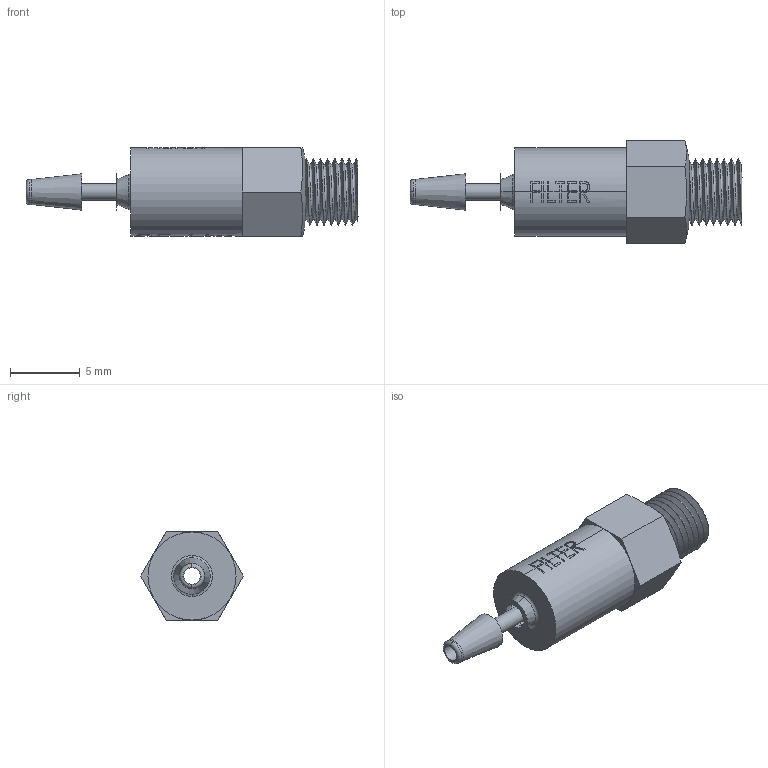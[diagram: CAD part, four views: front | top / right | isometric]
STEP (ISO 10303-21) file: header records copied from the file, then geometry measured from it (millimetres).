
FILE_DESCRIPTION(/* description */ ('SolidWorks IGES file using NURBS representation for surfaces '),/* implementation_level */ '2;1');
FILE_NAME(/* name */ 'K:\Normteile INVENTOR\Air-Logic\Filters\F-960-25-B80.IGS.ipt.stp',/* time_stamp */ '2020-05-27T10:39:54+02:00',/* author */ ('amarsh'),/* organization */ (''),/* preprocessor_version */ 'ST-DEVELOPER v18',/* originating_system */ 'Autodesk Inventor 2020',/* authorisation */ '');
FILE_SCHEMA (('AUTOMOTIVE_DESIGN { 1 0 10303 214 3 1 1 }'));
Length unit declared in the file: millimetre
Products named in the file (1): F-960-25-B80.IGS
Bounding box: 23.75 x 7.33 x 6.35 mm (x, y, z)
Volume: 436.3 mm3; surface area: 598.3 mm2
Topology: 1 solids, 1 shells, 179 faces, 515 edges, 345 vertices
Faces by surface type: plane 82, bspline 51, cylinder 37, cone 5, torus 4
Full cylindrical faces by diameter (mm): 1.17 x1, 1.8 x1, 2.36 x1, 4.75 x7
Entity records: 11370 total; most frequent: CARTESIAN_POINT 6884, ORIENTED_EDGE 1030, DIRECTION 790, EDGE_CURVE 515, VERTEX_POINT 345, AXIS2_PLACEMENT_3D 274, LINE 242, VECTOR 242
